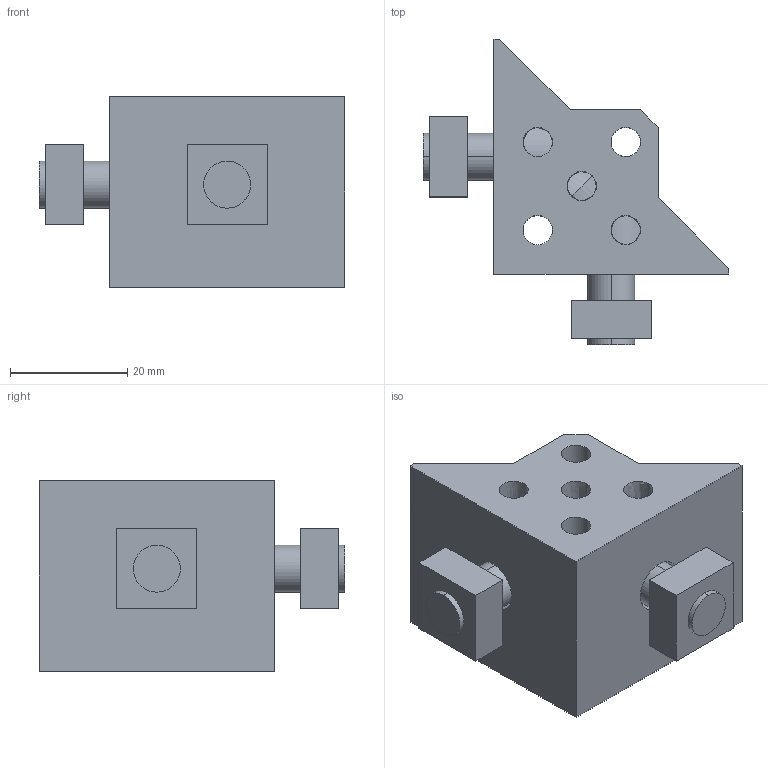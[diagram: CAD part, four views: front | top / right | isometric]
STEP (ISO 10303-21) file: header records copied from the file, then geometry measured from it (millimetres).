
FILE_DESCRIPTION(/* description */ (''),/* implementation_level */ '2;1');
FILE_NAME(/* name */ 'ABLB-4035-8-C5',/* time_stamp */ '2012-02-02T14:31:37+09:00',/* author */ (''),/* organization */ (''),/* preprocessor_version */ 'ST-DEVELOPER v10',/* originating_system */ '',/* authorisation */ '');
FILE_SCHEMA (('CONFIG_CONTROL_DESIGN'));
Length unit declared in the file: millimetre
Products named in the file (1): 1
Bounding box: 52 x 52 x 32.5 mm (x, y, z)
Volume: 5424.6 mm3; surface area: 12607.1 mm2
Topology: 4 solids, 5 shells, 76 faces, 195 edges, 123 vertices
Faces by surface type: bspline 38, plane 38
Entity records: 3401 total; most frequent: CARTESIAN_POINT 2080, ORIENTED_EDGE 383, EDGE_CURVE 195, B_SPLINE_CURVE_WITH_KNOTS 131, VERTEX_POINT 123, EDGE_LOOP 97, ADVANCED_FACE 76, FACE_OUTER_BOUND 76
